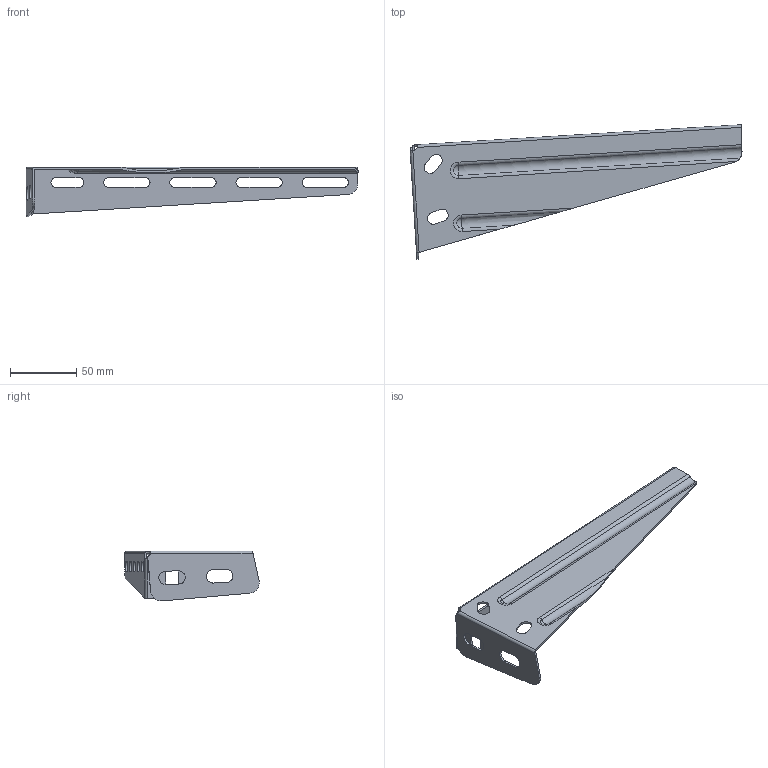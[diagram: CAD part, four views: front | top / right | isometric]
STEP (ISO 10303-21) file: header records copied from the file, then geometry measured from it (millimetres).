
FILE_DESCRIPTION (( 'STEP AP214' ), '1' );
FILE_NAME ('SCR200.STEP', '2023-06-28T09:45:04', ( '' ), ( '' ), 'SwSTEP 2.0', 'SolidWorks 2022', '' );
FILE_SCHEMA (( 'AUTOMOTIVE_DESIGN' ));
Length unit declared in the file: millimetre
Products named in the file (1): SCR200
Bounding box: 250.72 x 101.61 x 37.65 mm (x, y, z)
Volume: 33571.4 mm3; surface area: 46901.3 mm2
Topology: 1 solids, 1 shells, 113 faces, 301 edges, 190 vertices
Faces by surface type: cylinder 60, plane 39, bspline 6, sphere 4, torus 4
Entity records: 3809 total; most frequent: CARTESIAN_POINT 941, ORIENTED_EDGE 602, DIRECTION 583, EDGE_CURVE 301, AXIS2_PLACEMENT_3D 212, VERTEX_POINT 190, LINE 159, VECTOR 159
